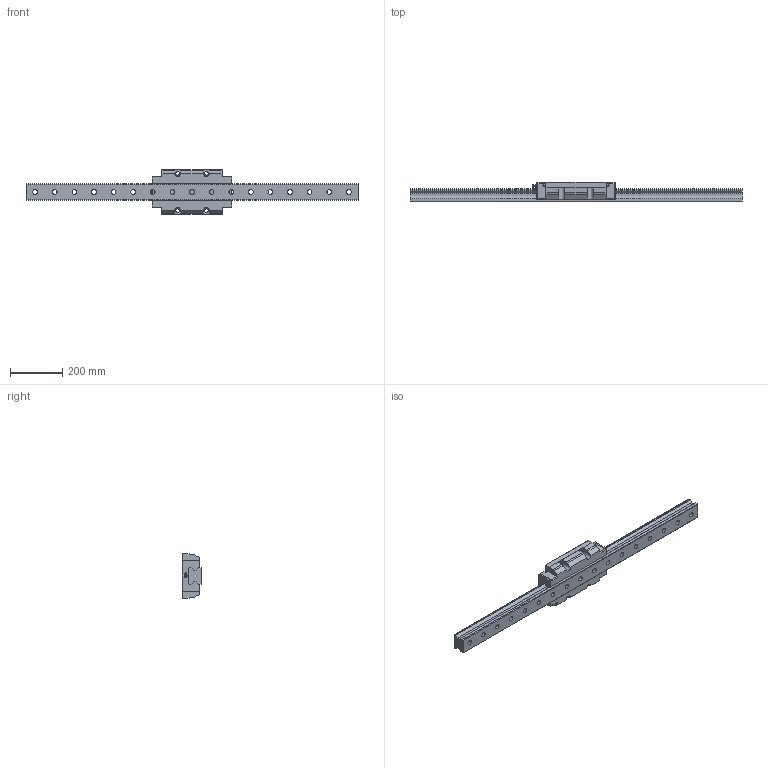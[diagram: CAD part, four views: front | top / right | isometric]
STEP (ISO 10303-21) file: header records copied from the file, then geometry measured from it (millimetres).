
FILE_DESCRIPTION(/* description */ ('STEP AP203'),/* implementation_level */ '2;1');
FILE_NAME(/* name */ 'SRN65LC1SS-1270L_G35_0_B-PT18_483-5_0_0_0_1',/* time_stamp */ '2024-05-23T10:44:01+02:00',/* author */ ('License CC BY-ND 4.0'),/* organization */ ('CADENAS'),/* preprocessor_version */ 'ST-DEVELOPER v19.3',/* originating_system */ 'PARTsolutions',/* authorisation */ ' ');
FILE_SCHEMA (('CONFIG_CONTROL_DESIGN'));
Length unit declared in the file: millimetre
Products named in the file (4): SRN65LC1SS-1270L_G35_0_B-PT18_483-5_0_0_0_1; SRN65LC127035 Track; SRN65LCSSB-PT1/81 Slide35-65; B-PT1/8-SRN_grease_nipple_joint
Assembly tree (3 placements, depth 2):
  SRN65LC1SS-1270L_G35_0_B-PT18_483-5_0_0_0_1
    SRN65LC127035 Track
    SRN65LCSSB-PT1/81 Slide35-65
    B-PT1/8-SRN_grease_nipple_joint
Bounding box: 1270 x 75 x 170 mm (x, y, z)
Volume: 5324293.1 mm3; surface area: 543300.3 mm2
Topology: 3 solids, 3 shells, 250 faces, 648 edges, 427 vertices
Faces by surface type: plane 162, cylinder 59, cone 24, torus 3, sphere 2
Full cylindrical faces by diameter (mm): 5.2 x4, 9.6 x1, 14.5 x6, 18 x17, 26 x17
Entity records: 7366 total; most frequent: CARTESIAN_POINT 1351, DIRECTION 1200, ORIENTED_EDGE 1114, EDGE_CURVE 557, AXIS2_PLACEMENT_3D 416, VERTEX_POINT 412, FACE_BOUND 395, EDGE_LOOP 393
